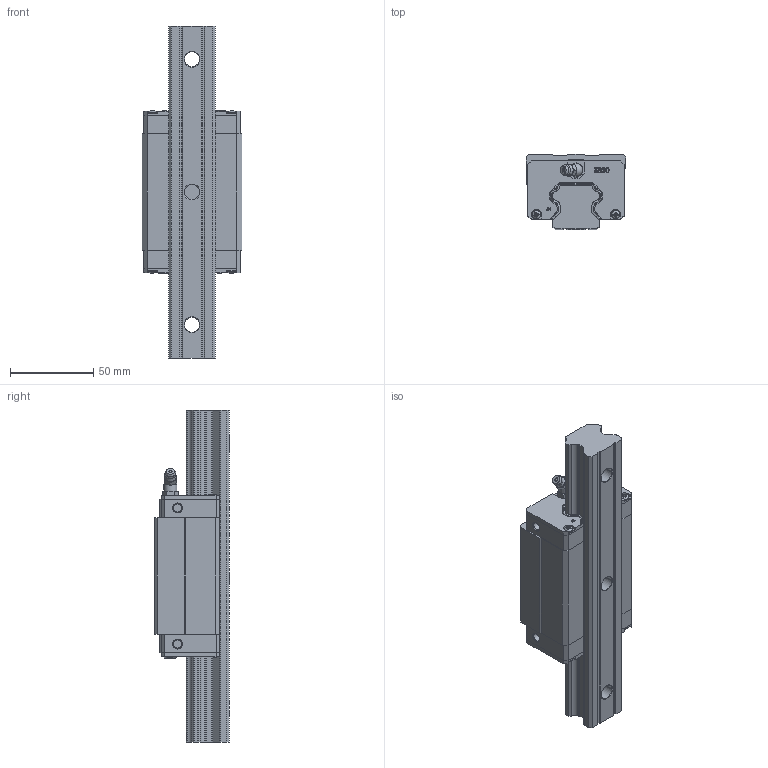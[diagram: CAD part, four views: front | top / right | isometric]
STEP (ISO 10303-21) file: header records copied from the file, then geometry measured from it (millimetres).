
FILE_DESCRIPTION(/* description */ (''),/* implementation_level */ '2;1');
FILE_NAME(/* name */ 'HBH30CA.stp',/* time_stamp */ '2024-09-29T20:49:09+08:00',/* author */ (''),/* organization */ (''),/* preprocessor_version */ 'ST-DEVELOPER v16.7',/* originating_system */ 'SIEMENS PLM Software NX 12.0',/* authorisation */ '');
FILE_SCHEMA (('AUTOMOTIVE_DESIGN { 1 0 10303 214 3 1 1 1 }'));
Products named in the file (3): HBH30CA; HBR30; HBH30CA_stp
Assembly tree (2 placements, depth 2):
  HBH30CA_stp
    HBR30
    HBH30CA
Bounding box: 60 x 45 x 200 mm (x, y, z)
Volume: 284574.4 mm3; surface area: 61680 mm2
Topology: 2 solids, 9 shells, 1048 faces, 2856 edges, 1877 vertices
Faces by surface type: plane 585, cylinder 221, extrusion 120, cone 72, bspline 40, torus 7, sphere 3
Full cylindrical faces by diameter (mm): 3 x1, 3.4 x4, 3.7 x1, 5 x4, 6.4 x2, 6.8 x28, 7.8 x1, 8.002 x2, 8.3 x1
Entity records: 74782 total; most frequent: CARTESIAN_POINT 43534, ORIENTED_EDGE 5404, DIRECTION 4513, EDGE_CURVE 2702, VERTEX_POINT 1800, VECTOR 1679, LINE 1559, AXIS2_PLACEMENT_3D 1417
